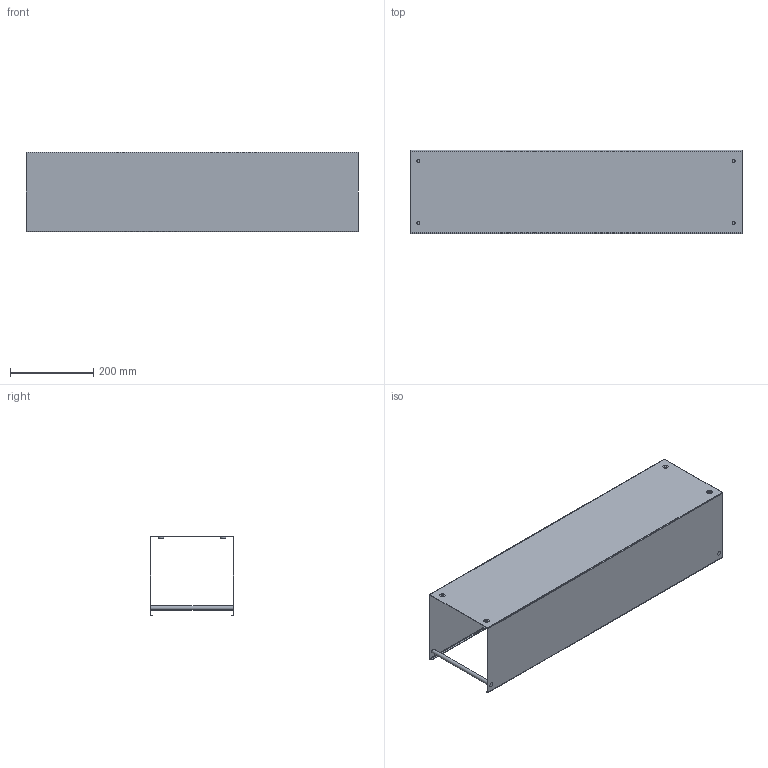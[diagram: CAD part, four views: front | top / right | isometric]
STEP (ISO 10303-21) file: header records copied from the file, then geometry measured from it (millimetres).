
FILE_DESCRIPTION (( 'STEP AP214' ), '1' );
FILE_NAME ('Pó³ka kuchenna MOLISA.STEP', '2023-08-29T09:52:28', ( '' ), ( '' ), 'SwSTEP 2.0', 'SolidWorks 2021', '' );
FILE_SCHEMA (( 'AUTOMOTIVE_DESIGN' ));
Length unit declared in the file: millimetre
Products named in the file (4): 14-002-0800-W-00-02; Pó³ka kuchenna MOLISA; zaœlepka œruby 13mm; 14-002-0800-W-00-01
Assembly tree (7 placements, depth 2):
  Pó³ka kuchenna MOLISA
    14-002-0800-W-00-01
    14-002-0800-W-00-02  x2
    zaœlepka œruby 13mm  x4
Bounding box: 800 x 200 x 192 mm (x, y, z)
Volume: 505094.7 mm3; surface area: 960165.9 mm2
Topology: 7 solids, 7 shells, 78 faces, 152 edges, 88 vertices
Faces by surface type: plane 38, cylinder 32, torus 8
Entity records: 1662 total; most frequent: DIRECTION 300, CARTESIAN_POINT 248, ORIENTED_EDGE 232, AXIS2_PLACEMENT_3D 118, EDGE_CURVE 116, VERTEX_POINT 66, EDGE_LOOP 64, VECTOR 64
